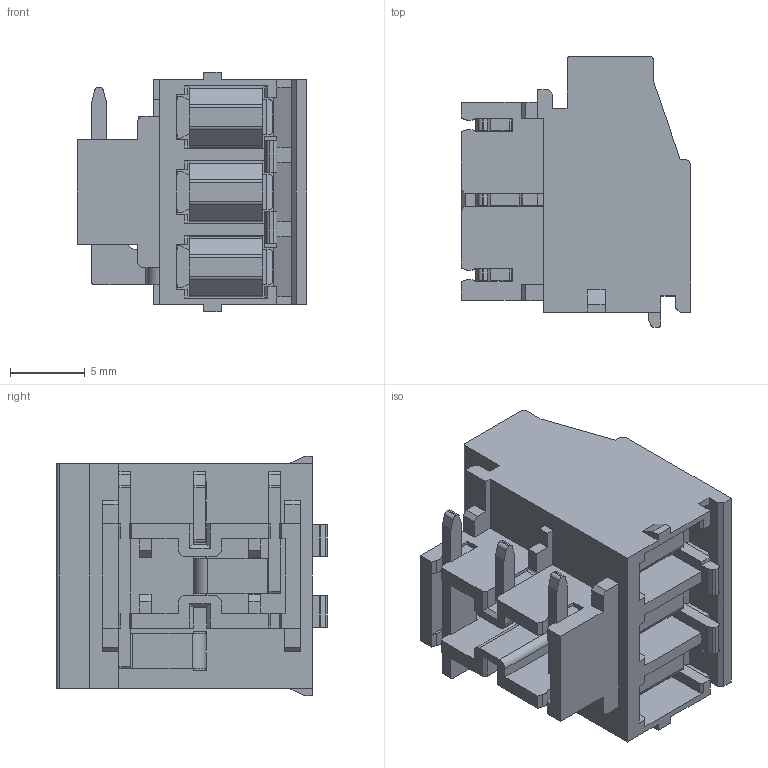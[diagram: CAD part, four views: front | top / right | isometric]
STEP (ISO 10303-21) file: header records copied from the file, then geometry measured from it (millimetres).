
FILE_DESCRIPTION((''),'2;1');
FILE_NAME('E603-L','2020-08-28T',('renkang.li'),(''),'CREO PARAMETRIC BY PTC INC, 2016260','CREO PARAMETRIC BY PTC INC, 2016260','');
FILE_SCHEMA(('CONFIG_CONTROL_DESIGN'));
Length unit declared in the file: millimetre
Products named in the file (1): E603-L
Bounding box: 15.3 x 18.05 x 16 mm (x, y, z)
Volume: 1751.8 mm3; surface area: 3868 mm2
Topology: 1 solids, 1 shells, 752 faces, 2369 edges, 1550 vertices
Faces by surface type: plane 513, cylinder 170, cone 33, torus 18, bspline 18
Entity records: 34386 total; most frequent: CARTESIAN_POINT 13423, ORIENTED_EDGE 4738, DIRECTION 3983, EDGE_CURVE 2369, VECTOR 1677, LINE 1677, VERTEX_POINT 1550, AXIS2_PLACEMENT_3D 1153
